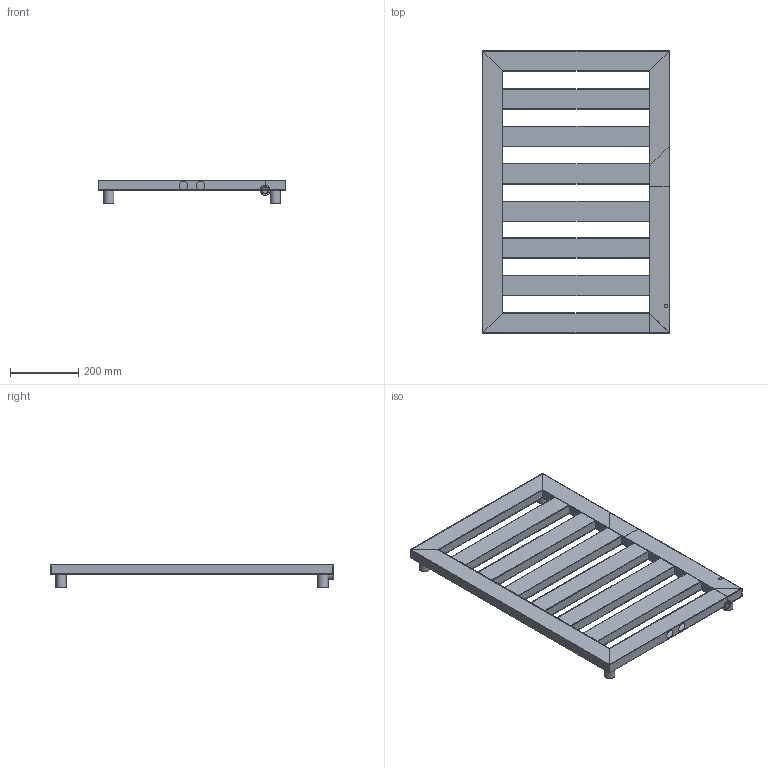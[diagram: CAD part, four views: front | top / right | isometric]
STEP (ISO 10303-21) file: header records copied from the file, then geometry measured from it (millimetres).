
FILE_DESCRIPTION( ( 'Unknown' ), '1' );
FILE_NAME( 'D:/Alplast sp. j/Witryna zespoBu - Projekty/Archiwum/Grzejniki Archiwum/Projekty/DESIGN PROGRAM/GRZEJNIK ROD/ROD 1.stp', 'Unknown', ( 'Unknown' ), ( 'Unknown' ), 'PSStep 10.1', 'Unknown', ' ' );
FILE_SCHEMA( ( 'AUTOMOTIVE_DESIGN { 1 0 10303 214 1 1 1 1 }' ) );
Length unit declared in the file: millimetre
Products named in the file (19): Assem1; tuleja wieszaka; tuleja wieszaka-oa0; tuleja wieszaka-oa1; tuleja wieszaka-oa2; sworzen wieszaka; sworzen wieszaka-oa3; sworzen wieszaka-oa4; sworzen wieszaka-oa5; kana³ poziomy    górny  60x10   L550; kana³ poziomy    dolny  60x10   L550; kana³ poziomu  60x10   L430; kana³ poziomu  60x10   L430-oa6; kana³ poziomu  60x10   L430-oa7; kana³ poziomu  60x10   L430-oa8; kana³ poziomu  60x10   L430-oa9; kana³ poziomu  60x10   L430-oa10; kana³ pionowy  60x10   L830; kana³ pionowy  60x10   L830-oa11
Bounding box: 550 x 830 x 70.05 mm (x, y, z)
Volume: 2835733.3 mm3; surface area: 3589571.4 mm2
Topology: 36 solids, 36 shells, 526 faces, 1400 edges, 946 vertices
Faces by surface type: plane 272, cylinder 230, cone 16, bspline 8
Full cylindrical faces by diameter (mm): 4.917 x8, 10 x2, 20 x56, 22 x8, 25 x4, 30 x8
Entity records: 10878 total; most frequent: CARTESIAN_POINT 1982, DIRECTION 1368, ORIENTED_EDGE 1228, EDGE_CURVE 614, AXIS2_PLACEMENT_3D 508, VERTEX_POINT 442, EDGE_LOOP 408, LINE 352
